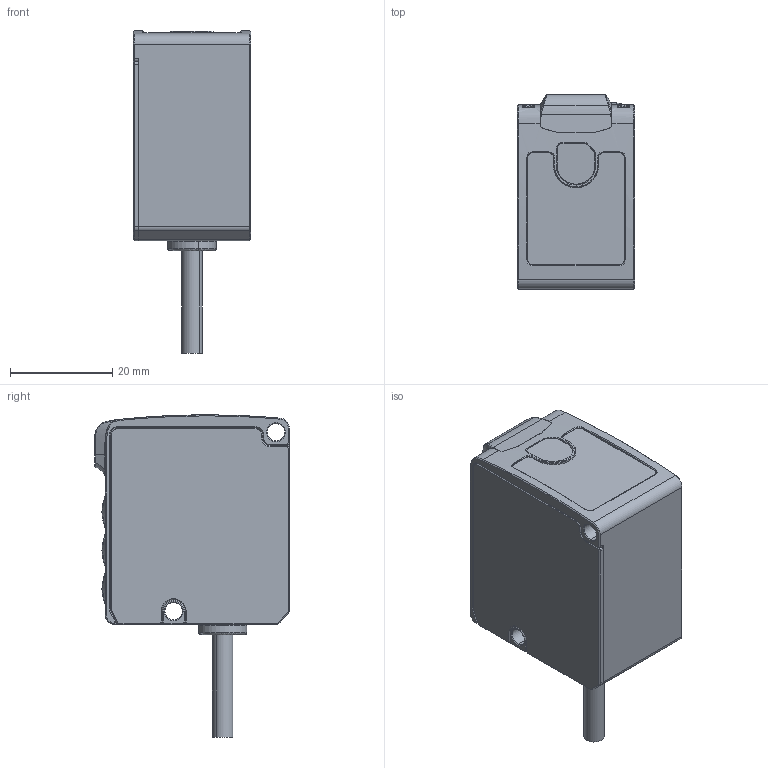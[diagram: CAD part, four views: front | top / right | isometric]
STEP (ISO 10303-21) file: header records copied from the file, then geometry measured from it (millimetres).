
FILE_DESCRIPTION(/* description */ (''),/* implementation_level */ '2;1');
FILE_NAME(/* name */ 'SDD',/* time_stamp */ '2025-11-13T13:37:48+08:00',/* author */ (''),/* organization */ (''),/* preprocessor_version */ 'ST-DEVELOPER v19.2',/* originating_system */ 'Rhino 8.5',/* authorisation */ '');
FILE_SCHEMA (('CONFIG_CONTROL_DESIGN'));
Length unit declared in the file: millimetre
Products named in the file (1): Document
Bounding box: 23 x 38 x 63 mm (x, y, z)
Surface area: 7519.5 mm2 (no closed solid volume)
Topology: 0 solids, 14 shells, 339 faces, 1174 edges, 838 vertices
Faces by surface type: bspline 131, plane 122, cylinder 86
Entity records: 20723 total; most frequent: CARTESIAN_POINT 12804, ORIENTED_EDGE 1825, EDGE_CURVE 1174, B_SPLINE_CURVE_WITH_KNOTS 903, VERTEX_POINT 838, DIRECTION 730, AXIS2_PLACEMENT_3D 469, EDGE_LOOP 372
